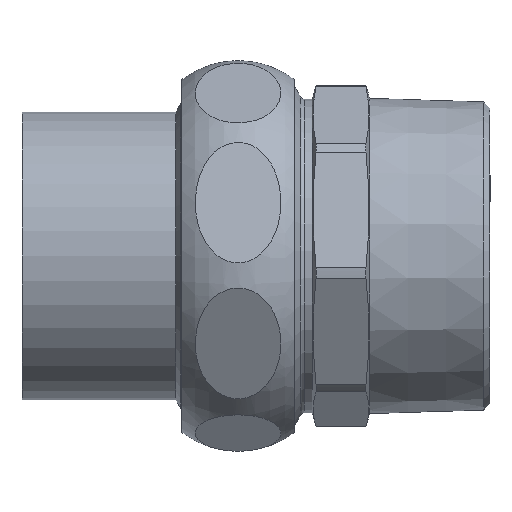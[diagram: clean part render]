
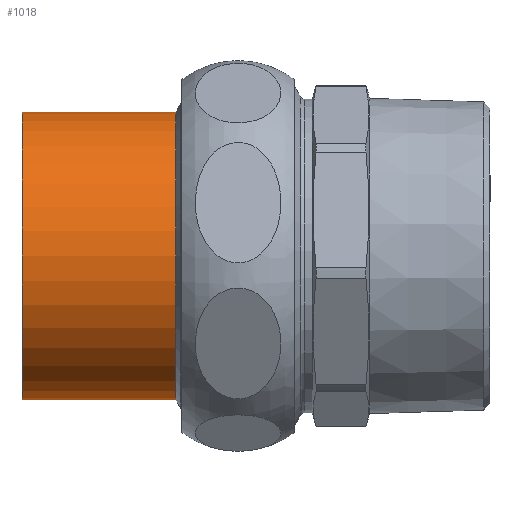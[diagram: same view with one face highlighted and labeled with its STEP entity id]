
A CAD part, front view. The second image highlights one B-rep face of the part: STEP entity #1018.
In plain terms, the highlighted cylindrical face has radius 34.6 mm (diameter 69.2 mm), a full revolution.
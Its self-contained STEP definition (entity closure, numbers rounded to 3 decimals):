
#123=FACE_OUTER_BOUND('',#183,.T.);
#183=EDGE_LOOP('',(#728,#729,#730,#731,#732,#733));
#251=LINE('',#1709,#290);
#290=VECTOR('',#1374,34.6);
#343=CIRCLE('',#1176,34.6);
#344=CIRCLE('',#1177,34.6);
#345=CIRCLE('',#1179,34.6);
#346=CIRCLE('',#1180,34.6);
#431=VERTEX_POINT('',#1700);
#432=VERTEX_POINT('',#1701);
#433=VERTEX_POINT('',#1705);
#434=VERTEX_POINT('',#1706);
#549=EDGE_CURVE('',#431,#432,#343,.T.);
#550=EDGE_CURVE('',#432,#431,#344,.T.);
#551=EDGE_CURVE('',#433,#434,#345,.T.);
#552=EDGE_CURVE('',#434,#433,#346,.T.);
#553=EDGE_CURVE('',#434,#432,#251,.T.);
#728=ORIENTED_EDGE('',*,*,#551,.F.);
#729=ORIENTED_EDGE('',*,*,#552,.F.);
#730=ORIENTED_EDGE('',*,*,#553,.T.);
#731=ORIENTED_EDGE('',*,*,#550,.T.);
#732=ORIENTED_EDGE('',*,*,#549,.T.);
#733=ORIENTED_EDGE('',*,*,#553,.F.);
#994=CYLINDRICAL_SURFACE('',#1178,34.6);
#1018=ADVANCED_FACE('',(#123),#994,.T.);
#1176=AXIS2_PLACEMENT_3D('',#1702,#1364,#1365);
#1177=AXIS2_PLACEMENT_3D('',#1703,#1366,#1367);
#1178=AXIS2_PLACEMENT_3D('',#1704,#1368,#1369);
#1179=AXIS2_PLACEMENT_3D('',#1707,#1370,#1371);
#1180=AXIS2_PLACEMENT_3D('',#1708,#1372,#1373);
#1364=DIRECTION('center_axis',(1.,0.,0.));
#1365=DIRECTION('ref_axis',(0.,1.,0.));
#1366=DIRECTION('center_axis',(1.,0.,0.));
#1367=DIRECTION('ref_axis',(0.,1.,0.));
#1368=DIRECTION('center_axis',(1.,0.,0.));
#1369=DIRECTION('ref_axis',(0.,1.,0.));
#1370=DIRECTION('center_axis',(1.,0.,0.));
#1371=DIRECTION('ref_axis',(0.,1.,0.));
#1372=DIRECTION('center_axis',(1.,0.,0.));
#1373=DIRECTION('ref_axis',(0.,1.,0.));
#1374=DIRECTION('',(-1.,0.,0.));
#1700=CARTESIAN_POINT('',(-55.,34.6,0.));
#1701=CARTESIAN_POINT('',(-55.,-34.6,0.));
#1702=CARTESIAN_POINT('Origin',(-55.,0.,0.));
#1703=CARTESIAN_POINT('Origin',(-55.,0.,0.));
#1704=CARTESIAN_POINT('Origin',(-36.5,0.,0.));
#1705=CARTESIAN_POINT('',(-18.,34.6,0.));
#1706=CARTESIAN_POINT('',(-18.,-34.6,0.));
#1707=CARTESIAN_POINT('Origin',(-18.,0.,0.));
#1708=CARTESIAN_POINT('Origin',(-18.,0.,0.));
#1709=CARTESIAN_POINT('',(-36.5,-34.6,0.));
